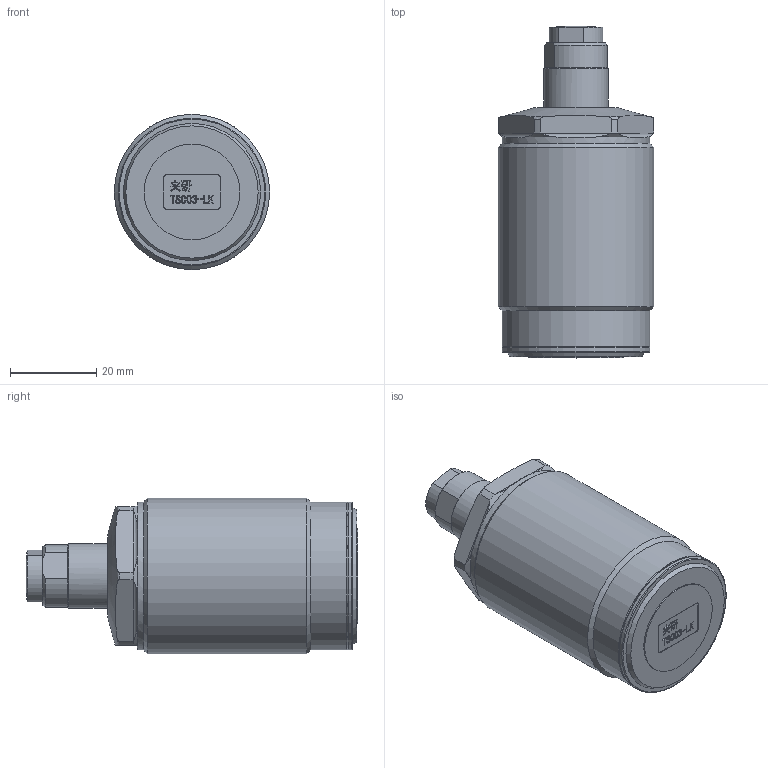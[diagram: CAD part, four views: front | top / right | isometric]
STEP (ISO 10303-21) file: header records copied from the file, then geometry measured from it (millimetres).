
FILE_DESCRIPTION(/* description */ (''),/* implementation_level */ '2;1');
FILE_NAME(/* name */ 'TSC03-LK.stp',/* time_stamp */ '2022-05-04T14:50:42+08:00',/* author */ (''),/* organization */ (''),/* preprocessor_version */ 'ST-DEVELOPER v16.7',/* originating_system */ 'SIEMENS PLM Software NX 12.0',/* authorisation */ '');
FILE_SCHEMA (('AUTOMOTIVE_DESIGN { 1 0 10303 214 3 1 1 1 }'));
Length unit declared in the file: millimetre
Products named in the file (1): TSC03-LK
Bounding box: 36 x 76.92 x 36 mm (x, y, z)
Volume: 58575.9 mm3; surface area: 11631.8 mm2
Topology: 3 solids, 3 shells, 260 faces, 672 edges, 441 vertices
Faces by surface type: plane 136, extrusion 62, cylinder 32, cone 16, torus 13, sphere 1
Full cylindrical faces by diameter (mm): 5 x1, 7.8 x1, 10 x2, 10.3 x1, 15 x2, 22.16 x1, 34.2 x3, 36 x1
Entity records: 10257 total; most frequent: CARTESIAN_POINT 3079, ORIENTED_EDGE 1280, DIRECTION 1004, EDGE_CURVE 640, VERTEX_POINT 438, VECTOR 434, LINE 372, EDGE_LOOP 312
